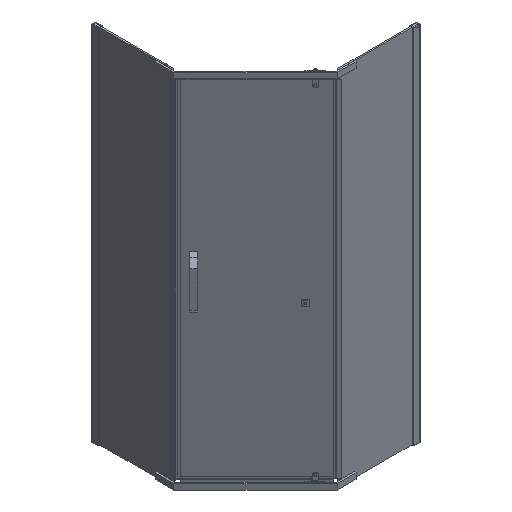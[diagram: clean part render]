
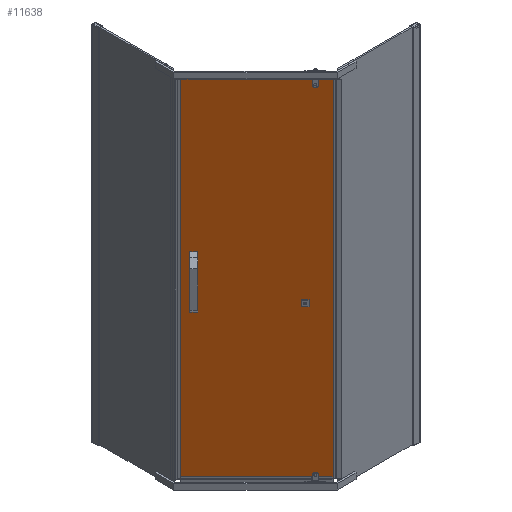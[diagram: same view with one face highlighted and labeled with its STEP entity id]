
A CAD part, isometric view. The second image highlights one B-rep face of the part: STEP entity #11638.
In plain terms, the highlighted planar face has unit normal (-0.707, -0.707, 0).
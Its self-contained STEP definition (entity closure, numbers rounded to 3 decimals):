
#1870 = CARTESIAN_POINT ( 'NONE',  ( 3594.25, -179.025, 44. ) ) ;
#1878 = FACE_OUTER_BOUND ( 'NONE', #3380, .T. ) ;
#1879 = PLANE ( 'NONE',  #32056 ) ;
#1881 = DIRECTION ( 'NONE',  ( -0.707, -0.707, 0. ) ) ;
#1882 = DIRECTION ( 'NONE',  ( 0.707, -0.707, 0. ) ) ;
#1926 = LINE ( 'NONE', #1927, #32068 ) ;
#1927 = CARTESIAN_POINT ( 'NONE',  ( 3594.25, -179.025, 44. ) ) ;
#1928 = DIRECTION ( 'NONE',  ( 0.707, -0.707, 0. ) ) ;
#1931 = LINE ( 'NONE', #1932, #32070 ) ;
#1932 = CARTESIAN_POINT ( 'NONE',  ( 4019.928, -604.703, 44. ) ) ;
#1933 = DIRECTION ( 'NONE',  ( 0., 0., 1. ) ) ;
#1937 = LINE ( 'NONE', #1938, #32072 ) ;
#1938 = CARTESIAN_POINT ( 'NONE',  ( 3594.25, -179.025, 1911. ) ) ;
#1939 = DIRECTION ( 'NONE',  ( -0.707, 0.707, 0. ) ) ;
#1940 = LINE ( 'NONE', #1941, #32073 ) ;
#1941 = CARTESIAN_POINT ( 'NONE',  ( 3594.25, -179.025, 44. ) ) ;
#1942 = DIRECTION ( 'NONE',  ( 0., 0., -1. ) ) ;
#2480 = CARTESIAN_POINT ( 'NONE',  ( 3594.25, -179.025, 44. ) ) ;
#2697 = CARTESIAN_POINT ( 'NONE',  ( 3594.25, -179.025, 1911. ) ) ;
#2710 = CARTESIAN_POINT ( 'NONE',  ( 4019.928, -604.703, 44. ) ) ;
#2716 = CARTESIAN_POINT ( 'NONE',  ( 4019.928, -604.703, 1911. ) ) ;
#3380 = EDGE_LOOP ( 'NONE', ( #12067, #12068, #12069, #12070 ) ) ;
#11638 = ADVANCED_FACE ( 'NONE', ( #1878 ), #1879, .T. ) ;
#11652 = EDGE_CURVE ( 'NONE', #12582, #12812, #1926, .T. ) ;
#11654 = EDGE_CURVE ( 'NONE', #12812, #12818, #1931, .T. ) ;
#11656 = EDGE_CURVE ( 'NONE', #12818, #12799, #1937, .T. ) ;
#11657 = EDGE_CURVE ( 'NONE', #12799, #12582, #1940, .T. ) ;
#12067 = ORIENTED_EDGE ( 'NONE', *, *, #11656, .T. ) ;
#12068 = ORIENTED_EDGE ( 'NONE', *, *, #11657, .T. ) ;
#12069 = ORIENTED_EDGE ( 'NONE', *, *, #11652, .T. ) ;
#12070 = ORIENTED_EDGE ( 'NONE', *, *, #11654, .T. ) ;
#12582 = VERTEX_POINT ( 'NONE', #2480 ) ;
#12799 = VERTEX_POINT ( 'NONE', #2697 ) ;
#12812 = VERTEX_POINT ( 'NONE', #2710 ) ;
#12818 = VERTEX_POINT ( 'NONE', #2716 ) ;
#32056 = AXIS2_PLACEMENT_3D ( 'NONE', #1870, #1881, #1882 ) ;
#32068 = VECTOR ( 'NONE', #1928, 1000. ) ;
#32070 = VECTOR ( 'NONE', #1933, 1000. ) ;
#32072 = VECTOR ( 'NONE', #1939, 1000. ) ;
#32073 = VECTOR ( 'NONE', #1942, 1000. ) ;
